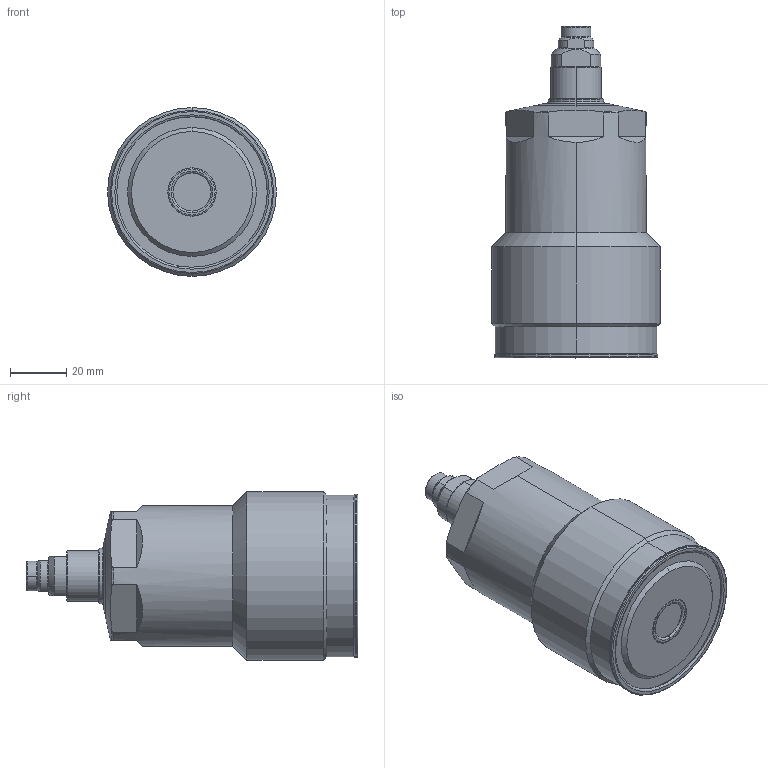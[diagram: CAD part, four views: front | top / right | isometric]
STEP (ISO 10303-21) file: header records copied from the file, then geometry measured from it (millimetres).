
FILE_DESCRIPTION(/* description */ (''),/* implementation_level */ '2;1');
FILE_NAME(/* name */ 'TNE60-M.stp',/* time_stamp */ '2026-02-04T14:38:01+08:00',/* author */ (''),/* organization */ (''),/* preprocessor_version */ 'ST-DEVELOPER v16.7',/* originating_system */ 'SIEMENS PLM Software NX 12.0',/* authorisation */ '');
FILE_SCHEMA (('AUTOMOTIVE_DESIGN { 1 0 10303 214 3 1 1 1 }'));
Length unit declared in the file: millimetre
Products named in the file (11): XLC-M10_Oring166; XLC-M10SP_pin; XLC-M10SP_contactbolt; XLC-M10SP_pad; XLC-M10_Oring2852; TNE60-M04; TNE60-01; TNE60-M02; XLC-M10_-M; TNE60-M03; TNE60-M_stp
Assembly tree (10 placements, depth 3):
  TNE60-M_stp
    TNE60-M02
    TNE60-M03
      XLC-M10_Oring2852
    TNE60-01
    TNE60-M04
    XLC-M10_-M
      XLC-M10SP_pad
      XLC-M10SP_contactbolt
      XLC-M10SP_pin
      XLC-M10_Oring166
Bounding box: 60 x 118 x 60 mm (x, y, z)
Volume: 208251.6 mm3; surface area: 25038.8 mm2
Topology: 8 solids, 8 shells, 210 faces, 464 edges, 282 vertices
Faces by surface type: torus 60, cylinder 60, plane 46, cone 38, sphere 6
Entity records: 6664 total; most frequent: CARTESIAN_POINT 1633, DIRECTION 1126, ORIENTED_EDGE 928, AXIS2_PLACEMENT_3D 499, EDGE_CURVE 464, VERTEX_POINT 282, CIRCLE 278, EDGE_LOOP 238
